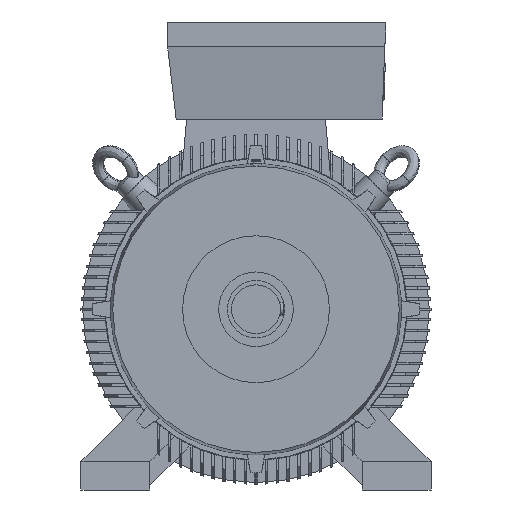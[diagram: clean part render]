
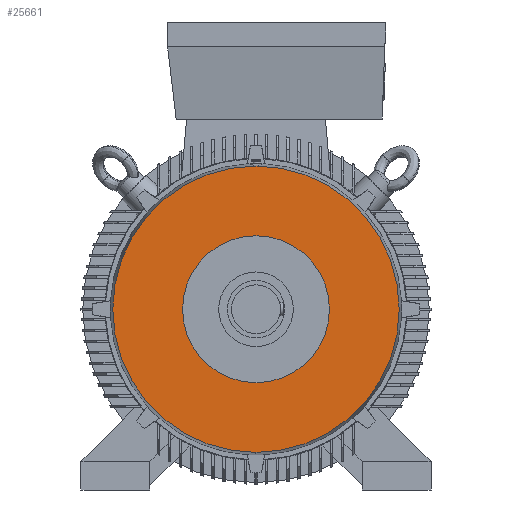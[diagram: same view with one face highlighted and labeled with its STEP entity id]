
A CAD part, left-side view. The second image highlights one B-rep face of the part: STEP entity #25661.
In plain terms, the highlighted planar face has unit normal (-1, 0, 0).
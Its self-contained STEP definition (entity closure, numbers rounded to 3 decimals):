
#4659 = VERTEX_POINT ( 'NONE', #6591 ) ;
#5329 = VERTEX_POINT ( 'NONE', #31152 ) ;
#5454 = VERTEX_POINT ( 'NONE', #31238 ) ;
#5666 = VERTEX_POINT ( 'NONE', #31385 ) ;
#5928 = EDGE_LOOP ( 'NONE', ( #6508, #6138 ) ) ;
#6010 = ORIENTED_EDGE ( 'NONE', *, *, #12847, .F. ) ;
#6138 = ORIENTED_EDGE ( 'NONE', *, *, #26340, .T. ) ;
#6343 = ORIENTED_EDGE ( 'NONE', *, *, #26488, .F. ) ;
#6448 = EDGE_LOOP ( 'NONE', ( #6010, #6343 ) ) ;
#6508 = ORIENTED_EDGE ( 'NONE', *, *, #26472, .T. ) ;
#6591 = CARTESIAN_POINT ( 'NONE',  ( -72., 0., -249.555 ) ) ;
#7758 = DIRECTION ( 'NONE',  ( -1., 0., 0. ) ) ;
#7761 = CARTESIAN_POINT ( 'NONE',  ( -72., 0., 191. ) ) ;
#7763 = PLANE ( 'NONE',  #33332 ) ;
#7765 = DIRECTION ( 'NONE',  ( 0., 0., 1. ) ) ;
#10438 = CARTESIAN_POINT ( 'NONE',  ( -72., 0., 0. ) ) ;
#10439 = DIRECTION ( 'NONE',  ( 1., 0., 0. ) ) ;
#10440 = DIRECTION ( 'NONE',  ( 0., 0., 1. ) ) ;
#10924 = CARTESIAN_POINT ( 'NONE',  ( -72., 0., 0. ) ) ;
#10925 = DIRECTION ( 'NONE',  ( 1., 0., 0. ) ) ;
#10926 = DIRECTION ( 'NONE',  ( 0., 0., 1. ) ) ;
#10985 = CARTESIAN_POINT ( 'NONE',  ( -72., 0., 0. ) ) ;
#10986 = DIRECTION ( 'NONE',  ( 1., 0., 0. ) ) ;
#10987 = DIRECTION ( 'NONE',  ( 0., 0., -1. ) ) ;
#12847 = EDGE_CURVE ( 'NONE', #4659, #5454, #20811, .T. ) ;
#14468 = FACE_BOUND ( 'NONE', #5928, .T. ) ;
#15382 = FACE_OUTER_BOUND ( 'NONE', #6448, .T. ) ;
#20811 = CIRCLE ( 'NONE', #28157, 249.555 ) ;
#25661 = ADVANCED_FACE ( 'NONE', ( #14468, #15382 ), #7763, .T. ) ;
#26340 = EDGE_CURVE ( 'NONE', #5666, #5329, #28476, .T. ) ;
#26472 = EDGE_CURVE ( 'NONE', #5329, #5666, #28712, .T. ) ;
#26488 = EDGE_CURVE ( 'NONE', #5454, #4659, #28507, .T. ) ;
#28157 = AXIS2_PLACEMENT_3D ( 'NONE', #31532, #31533, #31534 ) ;
#28476 = CIRCLE ( 'NONE', #33833, 128. ) ;
#28507 = CIRCLE ( 'NONE', #33880, 249.555 ) ;
#28712 = CIRCLE ( 'NONE', #33875, 128. ) ;
#31152 = CARTESIAN_POINT ( 'NONE',  ( -72., 0., 128. ) ) ;
#31238 = CARTESIAN_POINT ( 'NONE',  ( -72., 0., 249.555 ) ) ;
#31385 = CARTESIAN_POINT ( 'NONE',  ( -72., 0., -128. ) ) ;
#31532 = CARTESIAN_POINT ( 'NONE',  ( -72., 0., 0. ) ) ;
#31533 = DIRECTION ( 'NONE',  ( 1., 0., 0. ) ) ;
#31534 = DIRECTION ( 'NONE',  ( 0., 0., -1. ) ) ;
#33332 = AXIS2_PLACEMENT_3D ( 'NONE', #7761, #7758, #7765 ) ;
#33833 = AXIS2_PLACEMENT_3D ( 'NONE', #10438, #10439, #10440 ) ;
#33875 = AXIS2_PLACEMENT_3D ( 'NONE', #10924, #10925, #10926 ) ;
#33880 = AXIS2_PLACEMENT_3D ( 'NONE', #10985, #10986, #10987 ) ;
